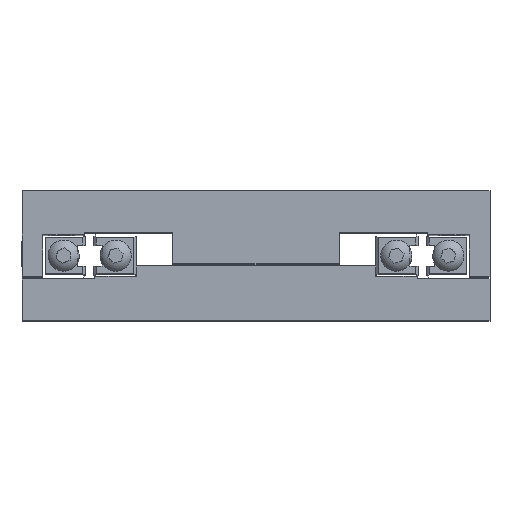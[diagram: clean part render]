
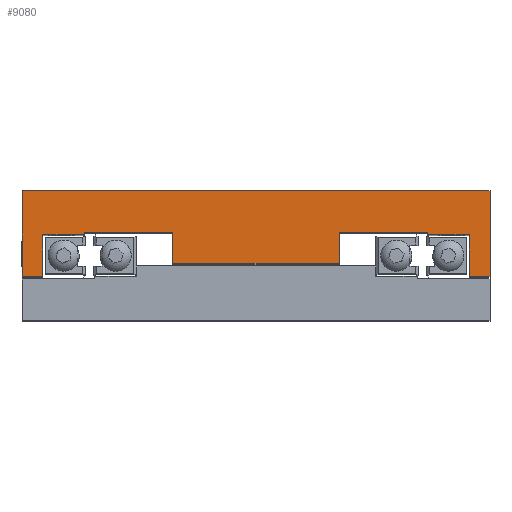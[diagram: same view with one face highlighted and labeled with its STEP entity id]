
A CAD part, top view. The second image highlights one B-rep face of the part: STEP entity #9080.
In plain terms, the highlighted planar face has unit normal (0, 0, 1).
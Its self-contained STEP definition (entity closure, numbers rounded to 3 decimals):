
#18 = EDGE_CURVE ( 'NONE', #7384, #7416, #13712, .T. ) ;
#563 = EDGE_CURVE ( 'NONE', #7413, #7408, #16239, .T. ) ;
#571 = EDGE_CURVE ( 'NONE', #7420, #7414, #16214, .T. ) ;
#584 = EDGE_CURVE ( 'NONE', #7416, #7418, #16175, .T. ) ;
#1750 = VERTEX_POINT ( 'NONE', #2648 ) ;
#1752 = VERTEX_POINT ( 'NONE', #2652 ) ;
#1761 = VERTEX_POINT ( 'NONE', #2668 ) ;
#1766 = VERTEX_POINT ( 'NONE', #2677 ) ;
#2648 = CARTESIAN_POINT ( 'NONE',  ( -70.057, -9.53, 0. ) ) ;
#2652 = CARTESIAN_POINT ( 'NONE',  ( -74.057, -9.53, 0. ) ) ;
#2668 = CARTESIAN_POINT ( 'NONE',  ( -70.057, -1.53, 0. ) ) ;
#2677 = CARTESIAN_POINT ( 'NONE',  ( -74.057, 6.97, 0. ) ) ;
#4920 = ORIENTED_EDGE ( 'NONE', *, *, #7954, .T. ) ;
#4921 = ORIENTED_EDGE ( 'NONE', *, *, #7966, .T. ) ;
#4922 = ORIENTED_EDGE ( 'NONE', *, *, #7584, .T. ) ;
#4923 = ORIENTED_EDGE ( 'NONE', *, *, #7603, .T. ) ;
#4924 = ORIENTED_EDGE ( 'NONE', *, *, #7886, .F. ) ;
#4925 = ORIENTED_EDGE ( 'NONE', *, *, #7713, .F. ) ;
#4926 = ORIENTED_EDGE ( 'NONE', *, *, #7560, .F. ) ;
#4927 = ORIENTED_EDGE ( 'NONE', *, *, #18, .F. ) ;
#4928 = ORIENTED_EDGE ( 'NONE', *, *, #584, .F. ) ;
#4929 = ORIENTED_EDGE ( 'NONE', *, *, #8022, .F. ) ;
#4930 = ORIENTED_EDGE ( 'NONE', *, *, #571, .F. ) ;
#4931 = ORIENTED_EDGE ( 'NONE', *, *, #7990, .F. ) ;
#4932 = ORIENTED_EDGE ( 'NONE', *, *, #563, .F. ) ;
#4933 = ORIENTED_EDGE ( 'NONE', *, *, #7972, .F. ) ;
#4934 = ORIENTED_EDGE ( 'NONE', *, *, #7959, .F. ) ;
#4935 = ORIENTED_EDGE ( 'NONE', *, *, #7961, .T. ) ;
#7111 = EDGE_LOOP ( 'NONE', ( #4935, #4934, #4933, #4932, #4931, #4930, #4929, #4928, #4927, #4926, #4925, #4924, #4923, #4922, #4921, #4920 ) ) ;
#7376 = VERTEX_POINT ( 'NONE', #16417 ) ;
#7383 = VERTEX_POINT ( 'NONE', #16435 ) ;
#7384 = VERTEX_POINT ( 'NONE', #16437 ) ;
#7388 = VERTEX_POINT ( 'NONE', #16444 ) ;
#7400 = VERTEX_POINT ( 'NONE', #16467 ) ;
#7408 = VERTEX_POINT ( 'NONE', #16482 ) ;
#7413 = VERTEX_POINT ( 'NONE', #16491 ) ;
#7414 = VERTEX_POINT ( 'NONE', #16493 ) ;
#7416 = VERTEX_POINT ( 'NONE', #16496 ) ;
#7418 = VERTEX_POINT ( 'NONE', #16500 ) ;
#7420 = VERTEX_POINT ( 'NONE', #16504 ) ;
#7422 = VERTEX_POINT ( 'NONE', #16508 ) ;
#7560 = EDGE_CURVE ( 'NONE', #7400, #7384, #15463, .T. ) ;
#7584 = EDGE_CURVE ( 'NONE', #7383, #7388, #15428, .T. ) ;
#7603 = EDGE_CURVE ( 'NONE', #7422, #7383, #15404, .T. ) ;
#7713 = EDGE_CURVE ( 'NONE', #7376, #7400, #10711, .T. ) ;
#7886 = EDGE_CURVE ( 'NONE', #7422, #7376, #10376, .T. ) ;
#7954 = EDGE_CURVE ( 'NONE', #1766, #1752, #10257, .T. ) ;
#7959 = EDGE_CURVE ( 'NONE', #1761, #1750, #10251, .T. ) ;
#7961 = EDGE_CURVE ( 'NONE', #1752, #1750, #10247, .T. ) ;
#7966 = EDGE_CURVE ( 'NONE', #7388, #1766, #10242, .T. ) ;
#7972 = EDGE_CURVE ( 'NONE', #7408, #1761, #10227, .T. ) ;
#7990 = EDGE_CURVE ( 'NONE', #7414, #7413, #10203, .T. ) ;
#8022 = EDGE_CURVE ( 'NONE', #7418, #7420, #10153, .T. ) ;
#8220 = CARTESIAN_POINT ( 'NONE',  ( 11.943, -1.53, 0. ) ) ;
#8221 = DIRECTION ( 'NONE',  ( 0., 1., 0. ) ) ;
#8415 = CARTESIAN_POINT ( 'NONE',  ( -74.057, -9.53, 0. ) ) ;
#8429 = DIRECTION ( 'NONE',  ( 0., -1., 0. ) ) ;
#8432 = CARTESIAN_POINT ( 'NONE',  ( -70.057, -9.53, 0. ) ) ;
#8443 = DIRECTION ( 'NONE',  ( 0., -1., 0. ) ) ;
#8445 = CARTESIAN_POINT ( 'NONE',  ( -74.057, -9.53, 0. ) ) ;
#8446 = DIRECTION ( 'NONE',  ( 1., 0., 0. ) ) ;
#8448 = CARTESIAN_POINT ( 'NONE',  ( -74.057, 6.97, 0. ) ) ;
#8459 = DIRECTION ( 'NONE',  ( -1., 0., 0. ) ) ;
#8470 = CARTESIAN_POINT ( 'NONE',  ( -70.057, -1.53, 0. ) ) ;
#8471 = DIRECTION ( 'NONE',  ( -1., 0., 0. ) ) ;
#8500 = CARTESIAN_POINT ( 'NONE',  ( -62.057, -1.03, 0. ) ) ;
#8518 = DIRECTION ( 'NONE',  ( -1., 0., 0. ) ) ;
#8591 = CARTESIAN_POINT ( 'NONE',  ( -45.057, -7.03, 0. ) ) ;
#8600 = DIRECTION ( 'NONE',  ( -1., 0., 0. ) ) ;
#8908 = CARTESIAN_POINT ( 'NONE',  ( -29.057, -1.28, 0. ) ) ;
#8917 = PLANE ( 'NONE',  #13863 ) ;
#8919 = DIRECTION ( 'NONE',  ( 0., 0., -1. ) ) ;
#8920 = DIRECTION ( 'NONE',  ( -1., 0., 0. ) ) ;
#9080 = ADVANCED_FACE ( 'NONE', ( #9914 ), #8917, .F. ) ;
#9914 = FACE_OUTER_BOUND ( 'NONE', #7111, .T. ) ;
#10151 = VECTOR ( 'NONE', #8600, 1000. ) ;
#10153 = LINE ( 'NONE', #8591, #10151 ) ;
#10201 = VECTOR ( 'NONE', #8518, 1000. ) ;
#10203 = LINE ( 'NONE', #8500, #10201 ) ;
#10225 = VECTOR ( 'NONE', #8471, 1000. ) ;
#10227 = LINE ( 'NONE', #8470, #10225 ) ;
#10236 = VECTOR ( 'NONE', #8459, 1000. ) ;
#10242 = LINE ( 'NONE', #8448, #10236 ) ;
#10244 = VECTOR ( 'NONE', #8446, 1000. ) ;
#10247 = LINE ( 'NONE', #8445, #10244 ) ;
#10250 = VECTOR ( 'NONE', #8443, 1000. ) ;
#10251 = LINE ( 'NONE', #8432, #10250 ) ;
#10255 = VECTOR ( 'NONE', #8429, 1000. ) ;
#10257 = LINE ( 'NONE', #8415, #10255 ) ;
#10373 = VECTOR ( 'NONE', #8221, 1000. ) ;
#10376 = LINE ( 'NONE', #8220, #10373 ) ;
#10699 = VECTOR ( 'NONE', #15185, 1000. ) ;
#10711 = LINE ( 'NONE', #15180, #10699 ) ;
#12939 = CARTESIAN_POINT ( 'NONE',  ( -62.057, -1.53, 0. ) ) ;
#12940 = DIRECTION ( 'NONE',  ( 0., -1., 0. ) ) ;
#12958 = CARTESIAN_POINT ( 'NONE',  ( -45.057, -1.03, 0. ) ) ;
#12959 = DIRECTION ( 'NONE',  ( 0., 1., 0. ) ) ;
#12991 = CARTESIAN_POINT ( 'NONE',  ( -13.057, -7.03, 0. ) ) ;
#12992 = DIRECTION ( 'NONE',  ( 0., -1., 0. ) ) ;
#13712 = LINE ( 'NONE', #14892, #13722 ) ;
#13722 = VECTOR ( 'NONE', #14891, 1000. ) ;
#13863 = AXIS2_PLACEMENT_3D ( 'NONE', #8908, #8919, #8920 ) ;
#14891 = DIRECTION ( 'NONE',  ( -1., 0., 0. ) ) ;
#14892 = CARTESIAN_POINT ( 'NONE',  ( -13.057, -1.03, 0. ) ) ;
#14932 = DIRECTION ( 'NONE',  ( 1., 0., 0. ) ) ;
#15180 = CARTESIAN_POINT ( 'NONE',  ( 3.943, -1.53, 0. ) ) ;
#15185 = DIRECTION ( 'NONE',  ( -1., 0., 0. ) ) ;
#15397 = VECTOR ( 'NONE', #14932, 1000. ) ;
#15404 = LINE ( 'NONE', #17106, #15397 ) ;
#15425 = VECTOR ( 'NONE', #17041, 1000. ) ;
#15428 = LINE ( 'NONE', #17016, #15425 ) ;
#15457 = VECTOR ( 'NONE', #16787, 1000. ) ;
#15463 = LINE ( 'NONE', #16785, #15457 ) ;
#16169 = VECTOR ( 'NONE', #12992, 1000. ) ;
#16175 = LINE ( 'NONE', #12991, #16169 ) ;
#16208 = VECTOR ( 'NONE', #12959, 1000. ) ;
#16214 = LINE ( 'NONE', #12958, #16208 ) ;
#16233 = VECTOR ( 'NONE', #12940, 1000. ) ;
#16239 = LINE ( 'NONE', #12939, #16233 ) ;
#16417 = CARTESIAN_POINT ( 'NONE',  ( 11.943, -1.53, 0. ) ) ;
#16435 = CARTESIAN_POINT ( 'NONE',  ( 15.943, -9.53, 0. ) ) ;
#16437 = CARTESIAN_POINT ( 'NONE',  ( 3.943, -1.03, 0. ) ) ;
#16444 = CARTESIAN_POINT ( 'NONE',  ( 15.943, 6.97, 0. ) ) ;
#16467 = CARTESIAN_POINT ( 'NONE',  ( 3.943, -1.53, 0. ) ) ;
#16482 = CARTESIAN_POINT ( 'NONE',  ( -62.057, -1.53, 0. ) ) ;
#16491 = CARTESIAN_POINT ( 'NONE',  ( -62.057, -1.03, 0. ) ) ;
#16493 = CARTESIAN_POINT ( 'NONE',  ( -45.057, -1.03, 0. ) ) ;
#16496 = CARTESIAN_POINT ( 'NONE',  ( -13.057, -1.03, 0. ) ) ;
#16500 = CARTESIAN_POINT ( 'NONE',  ( -13.057, -7.03, 0. ) ) ;
#16504 = CARTESIAN_POINT ( 'NONE',  ( -45.057, -7.03, 0. ) ) ;
#16508 = CARTESIAN_POINT ( 'NONE',  ( 11.943, -9.53, 0. ) ) ;
#16785 = CARTESIAN_POINT ( 'NONE',  ( 3.943, -1.03, 0. ) ) ;
#16787 = DIRECTION ( 'NONE',  ( 0., 1., 0. ) ) ;
#17016 = CARTESIAN_POINT ( 'NONE',  ( 15.943, -9.53, 0. ) ) ;
#17041 = DIRECTION ( 'NONE',  ( 0., 1., 0. ) ) ;
#17106 = CARTESIAN_POINT ( 'NONE',  ( -74.057, -9.53, 0. ) ) ;
